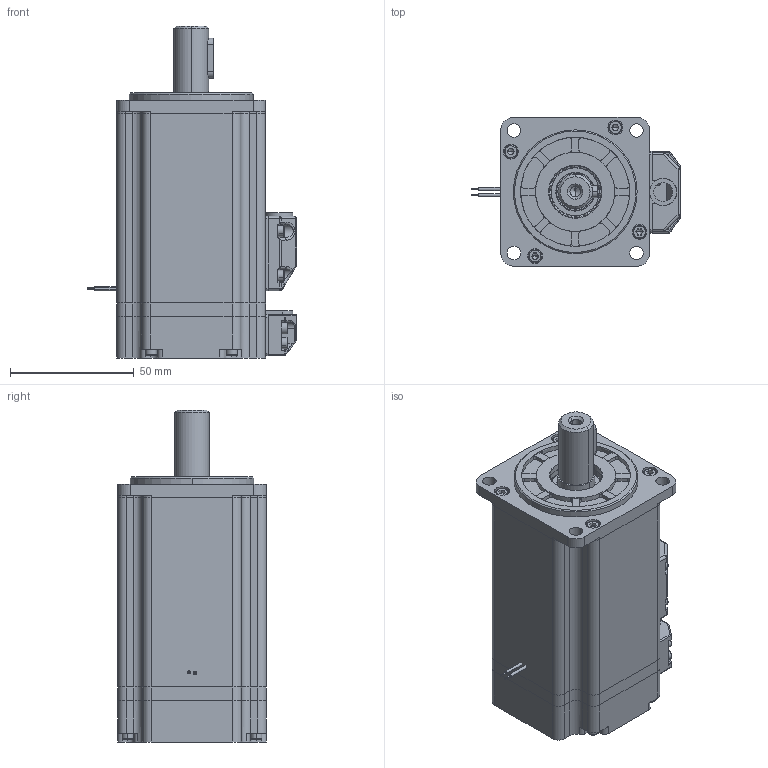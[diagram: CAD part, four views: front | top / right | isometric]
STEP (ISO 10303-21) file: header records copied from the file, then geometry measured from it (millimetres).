
FILE_DESCRIPTION (( 'STEP AP203' ), '1' );
FILE_NAME ('淕儂蚾饜.STEP', '2021-10-23T05:53:18', ( '' ), ( '' ), 'SwSTEP 2.0', 'SolidWorks 2018', '' );
FILE_SCHEMA (( 'CONFIG_CONTROL_DESIGN' ));
Products named in the file (1): 淕儂蚾饜
Bounding box: 84.36 x 60 x 134 mm (x, y, z)
Volume: 184659.6 mm3; surface area: 115275.7 mm2
Topology: 44 solids, 44 shells, 2050 faces, 5427 edges, 3386 vertices
Faces by surface type: cylinder 825, plane 805, cone 216, torus 119, sphere 64, bspline 21
Entity records: 66951 total; most frequent: CARTESIAN_POINT 16273, DIRECTION 10972, ORIENTED_EDGE 10432, EDGE_CURVE 5216, AXIS2_PLACEMENT_3D 4215, VERTEX_POINT 3310, VECTOR 2542, LINE 2542
